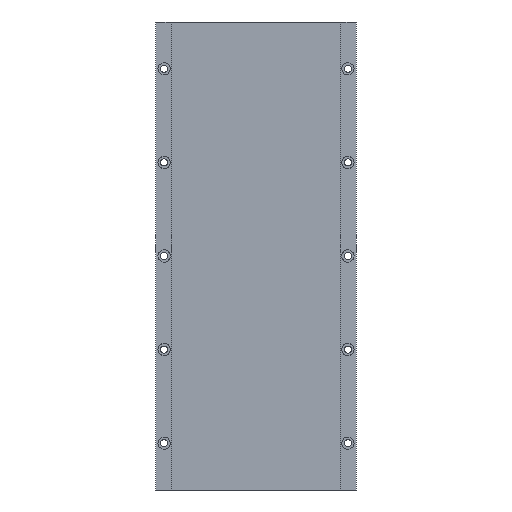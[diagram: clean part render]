
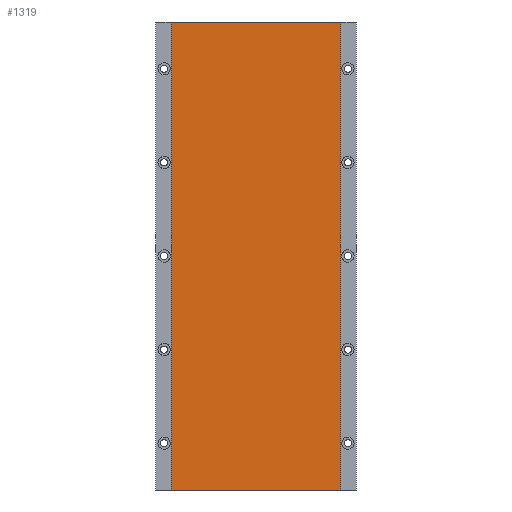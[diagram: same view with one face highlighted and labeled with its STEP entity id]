
A CAD part, left-side view. The second image highlights one B-rep face of the part: STEP entity #1319.
In plain terms, the highlighted planar face has unit normal (-1, 0, 0).
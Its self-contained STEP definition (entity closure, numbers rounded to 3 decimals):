
#38 = CARTESIAN_POINT ( 'NONE',  ( -7.8, 76.15, 420. ) ) ;
#172 = EDGE_CURVE ( 'NONE', #1571, #1347, #1240, .T. ) ;
#251 = CARTESIAN_POINT ( 'NONE',  ( -7.8, 0., 0. ) ) ;
#302 = AXIS2_PLACEMENT_3D ( 'NONE', #1320, #1312, #1580 ) ;
#387 = ORIENTED_EDGE ( 'NONE', *, *, #1162, .F. ) ;
#430 = LINE ( 'NONE', #251, #1538 ) ;
#467 = CARTESIAN_POINT ( 'NONE',  ( -7.8, -76.15, 420. ) ) ;
#525 = ORIENTED_EDGE ( 'NONE', *, *, #1323, .T. ) ;
#675 = ORIENTED_EDGE ( 'NONE', *, *, #1129, .F. ) ;
#705 = VERTEX_POINT ( 'NONE', #1372 ) ;
#782 = CARTESIAN_POINT ( 'NONE',  ( -7.8, 76.15, 420. ) ) ;
#872 = DIRECTION ( 'NONE',  ( 0., 1., 0. ) ) ;
#974 = VECTOR ( 'NONE', #1480, 1000. ) ;
#992 = DIRECTION ( 'NONE',  ( 0., 1., 0. ) ) ;
#1094 = FACE_OUTER_BOUND ( 'NONE', #1810, .T. ) ;
#1129 = EDGE_CURVE ( 'NONE', #705, #1202, #1784, .T. ) ;
#1162 = EDGE_CURVE ( 'NONE', #1202, #1347, #430, .T. ) ;
#1202 = VERTEX_POINT ( 'NONE', #1841 ) ;
#1211 = ORIENTED_EDGE ( 'NONE', *, *, #172, .T. ) ;
#1240 = LINE ( 'NONE', #38, #974 ) ;
#1312 = DIRECTION ( 'NONE',  ( -1., 0., 0. ) ) ;
#1319 = ADVANCED_FACE ( 'NONE', ( #1094 ), #1469, .T. ) ;
#1320 = CARTESIAN_POINT ( 'NONE',  ( -7.8, 0., 420. ) ) ;
#1323 = EDGE_CURVE ( 'NONE', #705, #1571, #1687, .T. ) ;
#1329 = VECTOR ( 'NONE', #1626, 1000. ) ;
#1347 = VERTEX_POINT ( 'NONE', #1453 ) ;
#1372 = CARTESIAN_POINT ( 'NONE',  ( -7.8, -76.15, 420. ) ) ;
#1453 = CARTESIAN_POINT ( 'NONE',  ( -7.8, 76.15, 0. ) ) ;
#1464 = CARTESIAN_POINT ( 'NONE',  ( -7.8, 0., 420. ) ) ;
#1469 = PLANE ( 'NONE',  #302 ) ;
#1480 = DIRECTION ( 'NONE',  ( 0., 0., -1. ) ) ;
#1538 = VECTOR ( 'NONE', #992, 1000. ) ;
#1571 = VERTEX_POINT ( 'NONE', #782 ) ;
#1580 = DIRECTION ( 'NONE',  ( 0., 0., 1. ) ) ;
#1626 = DIRECTION ( 'NONE',  ( 0., 0., -1. ) ) ;
#1687 = LINE ( 'NONE', #1464, #1838 ) ;
#1784 = LINE ( 'NONE', #467, #1329 ) ;
#1810 = EDGE_LOOP ( 'NONE', ( #387, #675, #525, #1211 ) ) ;
#1838 = VECTOR ( 'NONE', #872, 1000. ) ;
#1841 = CARTESIAN_POINT ( 'NONE',  ( -7.8, -76.15, 0. ) ) ;
